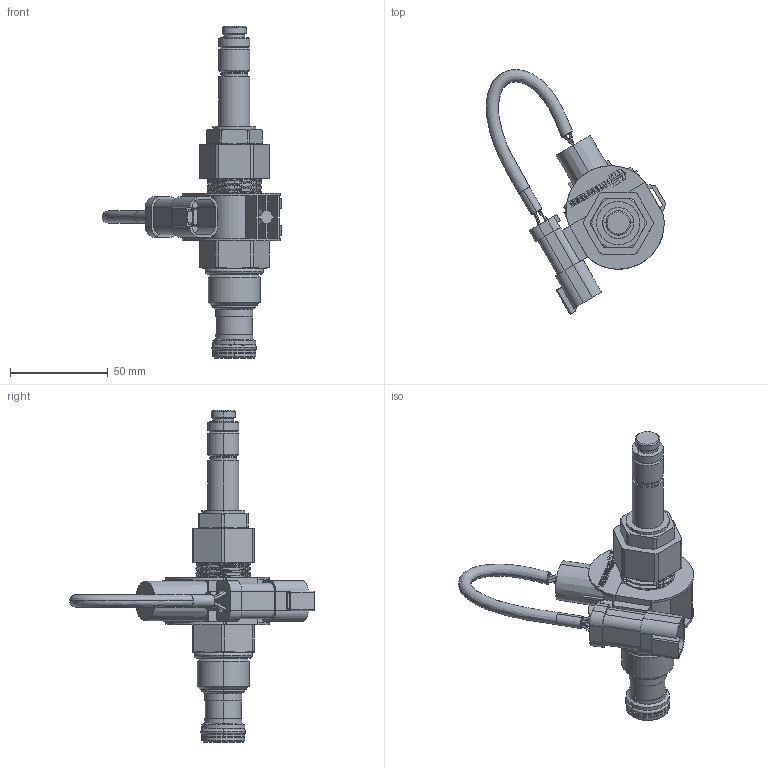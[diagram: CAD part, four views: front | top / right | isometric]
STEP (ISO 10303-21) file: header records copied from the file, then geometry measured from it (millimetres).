
FILE_DESCRIPTION((''),'2;1');
FILE_NAME('ASM0001_ASM','2021-06-24T13:46:31',('CY1'),(''),'CREO PARAMETRIC BY PTC INC, 2018020','CREO PARAMETRIC BY PTC INC, 2018020','');
FILE_SCHEMA(('CONFIG_CONTROL_DESIGN'));
Products named in the file (3): PRT0002; PRT0003; ASM0001_ASM
Assembly tree (2 placements, depth 2):
  ASM0001_ASM
    PRT0002
    PRT0003
Bounding box: 92.01 x 125.49 x 170.12 mm (x, y, z)
Volume: 110667.8 mm3; surface area: 45547.2 mm2
Topology: 2 solids, 2 shells, 881 faces, 2478 edges, 1601 vertices
Faces by surface type: plane 402, cylinder 249, cone 66, bspline 66, extrusion 64, torus 26, sphere 8
Entity records: 38959 total; most frequent: CARTESIAN_POINT 17345, ORIENTED_EDGE 4932, DIRECTION 3735, EDGE_CURVE 2466, VERTEX_POINT 1601, VECTOR 1401, LINE 1337, AXIS2_PLACEMENT_3D 1167
